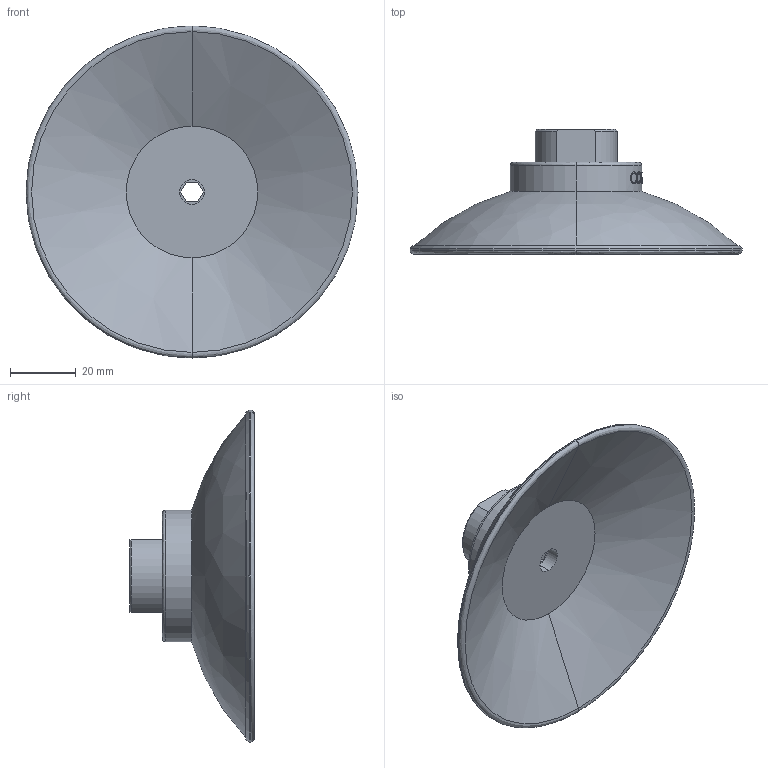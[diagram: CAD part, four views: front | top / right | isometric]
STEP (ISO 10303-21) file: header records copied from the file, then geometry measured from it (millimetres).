
FILE_DESCRIPTION (( 'STEP AP214' ), '1' );
FILE_NAME ('SAF-100-G3-8IG.STEP', '2023-03-07T06:03:45', ( 'Windows User' ), ( 'P R C' ), 'SwSTEP 2.0', 'SolidWorks 2019', '' );
FILE_SCHEMA (( 'AUTOMOTIVE_DESIGN' ));
Length unit declared in the file: millimetre
Products named in the file (1): SAF-100-G3-8IG
Bounding box: 101 x 38 x 101 mm (x, y, z)
Volume: 58031.1 mm3; surface area: 20881.4 mm2
Topology: 1 solids, 1 shells, 93 faces, 230 edges, 150 vertices
Faces by surface type: bspline 35, plane 28, cylinder 20, cone 10
Entity records: 13465 total; most frequent: CARTESIAN_POINT 10363, ORIENTED_EDGE 460, DIRECTION 356, EDGE_CURVE 230, VERTEX_POINT 150, AXIS2_PLACEMENT_3D 131, EDGE_LOOP 106, UNCERTAINTY_MEASURE_WITH_UNIT 96
